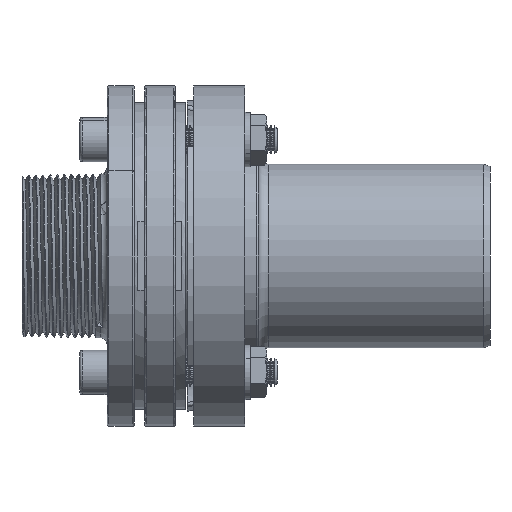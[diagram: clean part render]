
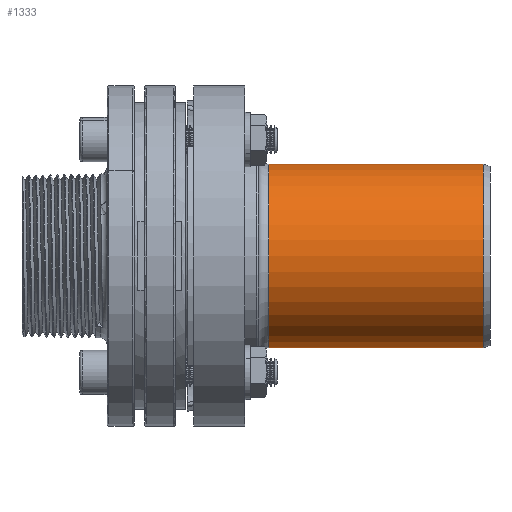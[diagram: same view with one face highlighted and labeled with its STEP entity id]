
A CAD part, left-side view. The second image highlights one B-rep face of the part: STEP entity #1333.
In plain terms, the highlighted cylindrical face has radius 27 mm (diameter 54 mm), a partial arc.
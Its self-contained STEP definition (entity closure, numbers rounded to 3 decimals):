
#1333 = ADVANCED_FACE ( 'NONE', ( #14724 ), #14727, .T. ) ;
#1922 = AXIS2_PLACEMENT_3D ( 'NONE', #14725, #14714, #14728 ) ;
#2165 = EDGE_LOOP ( 'NONE', ( #2906, #2907, #2908, #2909 ) ) ;
#2906 = ORIENTED_EDGE ( 'NONE', *, *, #25945, .F. ) ;
#2907 = ORIENTED_EDGE ( 'NONE', *, *, #25966, .T. ) ;
#2908 = ORIENTED_EDGE ( 'NONE', *, *, #25947, .T. ) ;
#2909 = ORIENTED_EDGE ( 'NONE', *, *, #25942, .F. ) ;
#8236 = VERTEX_POINT ( 'NONE', #10046 ) ;
#8237 = VERTEX_POINT ( 'NONE', #10047 ) ;
#8238 = VERTEX_POINT ( 'NONE', #10048 ) ;
#8239 = VERTEX_POINT ( 'NONE', #10049 ) ;
#10046 = CARTESIAN_POINT ( 'NONE',  ( 0., 65., 27. ) ) ;
#10047 = CARTESIAN_POINT ( 'NONE',  ( 0., 65., -27. ) ) ;
#10048 = CARTESIAN_POINT ( 'NONE',  ( 0., 2., -27. ) ) ;
#10049 = CARTESIAN_POINT ( 'NONE',  ( 0., 2., 27. ) ) ;
#14714 = DIRECTION ( 'NONE',  ( 0., 1., 0. ) ) ;
#14724 = FACE_OUTER_BOUND ( 'NONE', #2165, .T. ) ;
#14725 = CARTESIAN_POINT ( 'NONE',  ( 0., 88.132, 0. ) ) ;
#14727 = CYLINDRICAL_SURFACE ( 'NONE', #1922, 27. ) ;
#14728 = DIRECTION ( 'NONE',  ( 0., 0., 1. ) ) ;
#25478 = CARTESIAN_POINT ( 'NONE',  ( 0., 88.132, -27. ) ) ;
#25482 = LINE ( 'NONE', #25489, #26364 ) ;
#25483 = CARTESIAN_POINT ( 'NONE',  ( 0., 65., 0. ) ) ;
#25484 = DIRECTION ( 'NONE',  ( 0., 1., 0. ) ) ;
#25485 = DIRECTION ( 'NONE',  ( 0., 0., 1. ) ) ;
#25489 = CARTESIAN_POINT ( 'NONE',  ( 0., 88.132, 27. ) ) ;
#25490 = LINE ( 'NONE', #25478, #26359 ) ;
#25494 = DIRECTION ( 'NONE',  ( 0., 1., 0. ) ) ;
#25499 = DIRECTION ( 'NONE',  ( 0., 1., 0. ) ) ;
#25553 = CARTESIAN_POINT ( 'NONE',  ( 0., 2., 0. ) ) ;
#25554 = DIRECTION ( 'NONE',  ( 0., 1., 0. ) ) ;
#25555 = DIRECTION ( 'NONE',  ( 0., 0., 1. ) ) ;
#25942 = EDGE_CURVE ( 'NONE', #8237, #8236, #26353, .T. ) ;
#25945 = EDGE_CURVE ( 'NONE', #8238, #8237, #25490, .T. ) ;
#25947 = EDGE_CURVE ( 'NONE', #8239, #8236, #25482, .T. ) ;
#25966 = EDGE_CURVE ( 'NONE', #8238, #8239, #26394, .T. ) ;
#26353 = CIRCLE ( 'NONE', #26358, 27. ) ;
#26358 = AXIS2_PLACEMENT_3D ( 'NONE', #25483, #25484, #25485 ) ;
#26359 = VECTOR ( 'NONE', #25494, 1000. ) ;
#26364 = VECTOR ( 'NONE', #25499, 1000. ) ;
#26394 = CIRCLE ( 'NONE', #26397, 27. ) ;
#26397 = AXIS2_PLACEMENT_3D ( 'NONE', #25553, #25554, #25555 ) ;
